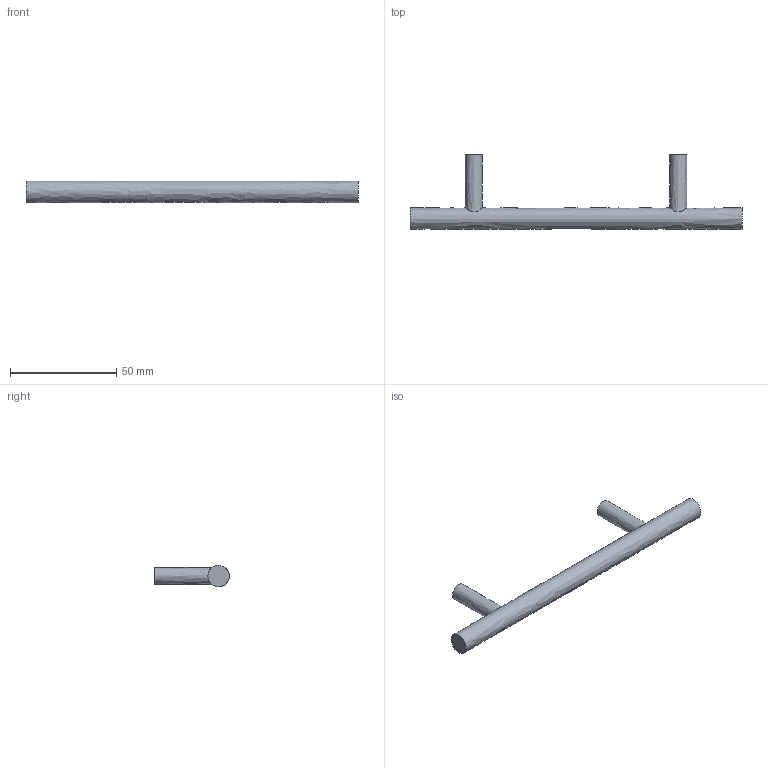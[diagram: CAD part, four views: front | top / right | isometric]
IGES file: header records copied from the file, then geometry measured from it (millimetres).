
Start section: Data from Parasolid IGES Translator 15.0.47, Copyright(c) 2006 Siemens P LM Software. All Rights Reserved.
Global section: file name: 9070967.igs; native system:  By UGS Corp.; preprocessor: XPlus GENERIC/IGES 3.0; author: Noname; organization: Noname; date: 20140122.181214; units: millimetre
Bounding box: 156 x 35 x 10 mm (x, y, z)
Surface area: 6652.3 mm2 (no closed solid volume)
Topology: 0 solids, 0 shells, 11 faces, 30 edges, 22 vertices
Faces by surface type: extrusion 6, revolution 5
